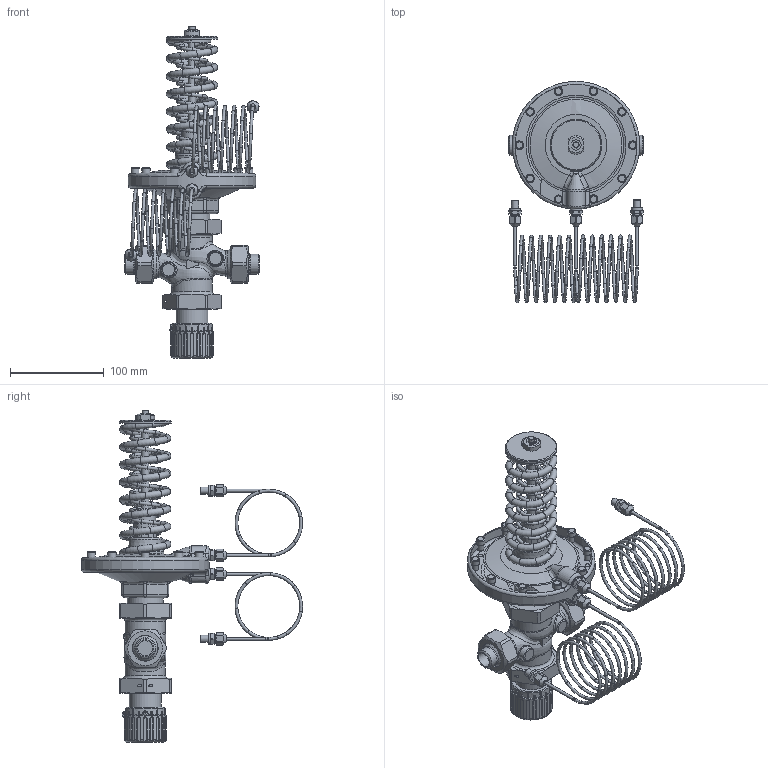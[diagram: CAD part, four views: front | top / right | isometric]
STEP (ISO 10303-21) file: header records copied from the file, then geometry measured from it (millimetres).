
FILE_DESCRIPTION(/* description */ (''),/* implementation_level */ '2;1');
FILE_NAME(/* name */ 'rd122p2_dn15_W.stp',/* time_stamp */ '2012-11-12T11:15:12+01:00',/* author */ ('JENIK'),/* organization */ ('LDM'),/* preprocessor_version */ 'ST-DEVELOPER v11',/* originating_system */ 'SIEMENS PLM Software NX 7.0',/* authorisation */ '');
FILE_SCHEMA (('CONFIG_CONTROL_DESIGN'));
Length unit declared in the file: millimetre
Products named in the file (1): jeniB5D7d1b0
Bounding box: 143.5 x 235.73 x 354 mm (x, y, z)
Volume: 530968.2 mm3; surface area: 189367 mm2
Topology: 9 solids, 22 shells, 1292 faces, 3017 edges, 1815 vertices
Faces by surface type: torus 368, cylinder 366, plane 321, bspline 139, cone 90, sphere 8
Full cylindrical faces by diameter (mm): 2 x3, 2.5 x1, 3 x4, 4.891 x10, 6 x12, 6.5 x14, 6.6 x1, 7.794 x4, 8 x7, 9 x10, 12 x4, 16.1 x2, 21 x2, 21.3 x2, 22 x1, 24.5 x1, 27 x2, 27.5 x2, 30 x5, 30.291 x2, 33.249 x2, 33.8 x1, 35 x1, 37 x1, 38 x1, 40 x2, 43 x3, 55 x1, 136 x1
Entity records: 45659 total; most frequent: CARTESIAN_POINT 19693, DIRECTION 5344, ORIENTED_EDGE 4834, EDGE_CURVE 2417, AXIS2_PLACEMENT_3D 2361, EDGE_LOOP 1853, VERTEX_POINT 1688, ADVANCED_FACE 1290
